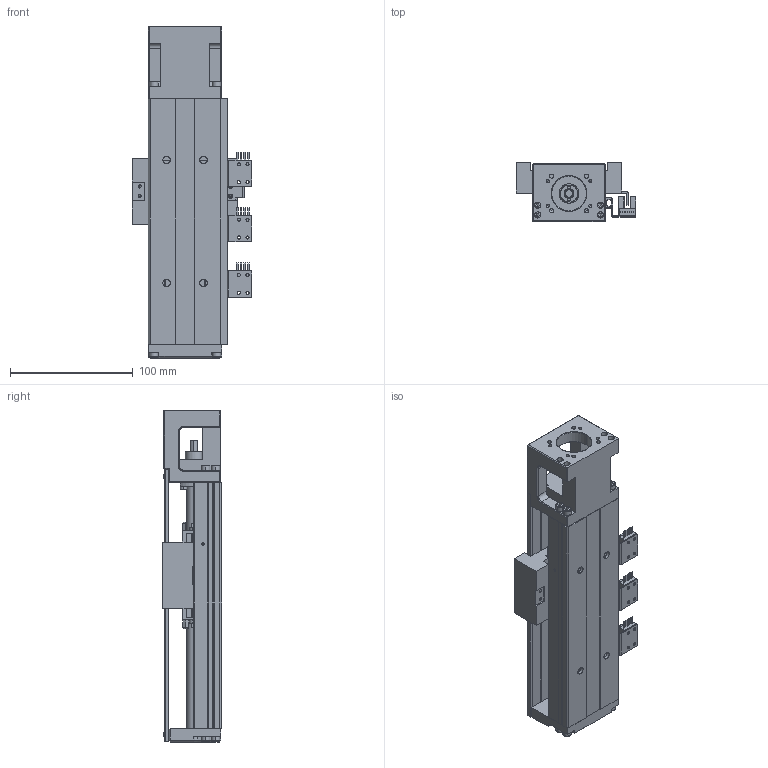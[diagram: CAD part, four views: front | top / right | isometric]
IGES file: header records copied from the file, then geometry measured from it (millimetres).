
Start section: SolidWorks IGES file using analytic representation for surfaces
Global section: file name: C:\Users\Administrator\Desktop\600L\ﾓﾐｻｬﾌｨ\GSX60C-MF-200L-ﾓﾐｻｬﾌｨ.IGS; native system: SolidWorks 2013; preprocessor: SolidWorks 2013; author: ｹｾﾇｿ,; organization: 11; date: 170411.101702; units: millimetre
Bounding box: 97.3 x 48 x 270 mm (x, y, z)
Surface area: 175311.4 mm2 (no closed solid volume)
Topology: 0 solids, 0 shells, 1692 faces, 19307 edges, 19170 vertices
Faces by surface type: bspline 1000, revolution 692
